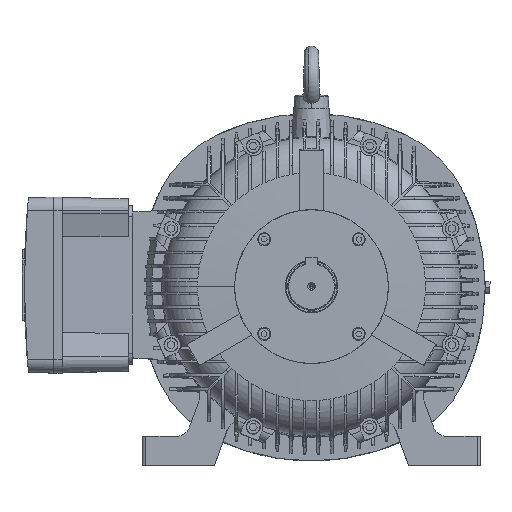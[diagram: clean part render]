
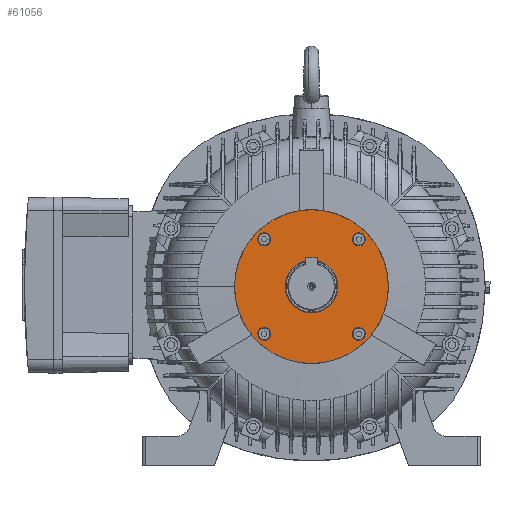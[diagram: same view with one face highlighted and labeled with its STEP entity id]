
A CAD part, top view. The second image highlights one B-rep face of the part: STEP entity #61056.
In plain terms, the highlighted planar face has unit normal (0, 0, 1).
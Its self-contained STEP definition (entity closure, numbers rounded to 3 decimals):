
#13013 = VERTEX_POINT ( 'NONE', #34877 ) ;
#13098 = VERTEX_POINT ( 'NONE', #34905 ) ;
#13116 = VERTEX_POINT ( 'NONE', #34908 ) ;
#13154 = VERTEX_POINT ( 'NONE', #34922 ) ;
#13275 = VERTEX_POINT ( 'NONE', #34960 ) ;
#13293 = VERTEX_POINT ( 'NONE', #34966 ) ;
#13322 = VERTEX_POINT ( 'NONE', #34975 ) ;
#13383 = VERTEX_POINT ( 'NONE', #35011 ) ;
#13553 = VERTEX_POINT ( 'NONE', #35084 ) ;
#13823 = VERTEX_POINT ( 'NONE', #35186 ) ;
#14856 = CARTESIAN_POINT ( 'NONE',  ( -53.74, -53.74, 262. ) ) ;
#14857 = DIRECTION ( 'NONE',  ( 0., 0., 1. ) ) ;
#14858 = DIRECTION ( 'NONE',  ( 1., 0., 0. ) ) ;
#14871 = CARTESIAN_POINT ( 'NONE',  ( 53.74, -53.74, 262. ) ) ;
#14872 = DIRECTION ( 'NONE',  ( 0., 0., 1. ) ) ;
#14873 = DIRECTION ( 'NONE',  ( -1., 0., 0. ) ) ;
#14959 = CARTESIAN_POINT ( 'NONE',  ( 0., 0., 262. ) ) ;
#14960 = DIRECTION ( 'NONE',  ( 0., 0., -1. ) ) ;
#14961 = DIRECTION ( 'NONE',  ( -1., 0., 0. ) ) ;
#15022 = CARTESIAN_POINT ( 'NONE',  ( 53.74, 53.74, 262. ) ) ;
#15023 = DIRECTION ( 'NONE',  ( 0., 0., 1. ) ) ;
#15024 = DIRECTION ( 'NONE',  ( 1., 0., 0. ) ) ;
#15271 = CARTESIAN_POINT ( 'NONE',  ( 0., 0., 262. ) ) ;
#15272 = DIRECTION ( 'NONE',  ( 0., 0., -1. ) ) ;
#15273 = DIRECTION ( 'NONE',  ( -1., 0., 0. ) ) ;
#15405 = CARTESIAN_POINT ( 'NONE',  ( -53.74, 53.74, 262. ) ) ;
#15406 = DIRECTION ( 'NONE',  ( 0., 0., 1. ) ) ;
#15407 = DIRECTION ( 'NONE',  ( -1., 0., 0. ) ) ;
#22206 = EDGE_CURVE ( 'NONE', #13098, #13293, #39817, .T. ) ;
#22211 = EDGE_CURVE ( 'NONE', #13383, #13275, #50423, .T. ) ;
#22238 = EDGE_CURVE ( 'NONE', #13823, #44105, #50472, .T. ) ;
#22259 = EDGE_CURVE ( 'NONE', #13322, #13553, #50509, .T. ) ;
#22318 = EDGE_CURVE ( 'NONE', #43873, #13013, #50720, .T. ) ;
#22356 = EDGE_CURVE ( 'NONE', #13116, #13154, #50847, .T. ) ;
#34877 = CARTESIAN_POINT ( 'NONE',  ( 87.5, 0., 262. ) ) ;
#34905 = CARTESIAN_POINT ( 'NONE',  ( -61.24, -53.74, 262. ) ) ;
#34908 = CARTESIAN_POINT ( 'NONE',  ( -61.24, 53.74, 262. ) ) ;
#34922 = CARTESIAN_POINT ( 'NONE',  ( -46.24, 53.74, 262. ) ) ;
#34960 = CARTESIAN_POINT ( 'NONE',  ( 61.24, -53.74, 262. ) ) ;
#34966 = CARTESIAN_POINT ( 'NONE',  ( -46.24, -53.74, 262. ) ) ;
#34975 = CARTESIAN_POINT ( 'NONE',  ( 46.24, 53.74, 262. ) ) ;
#35011 = CARTESIAN_POINT ( 'NONE',  ( 46.24, -53.74, 262. ) ) ;
#35084 = CARTESIAN_POINT ( 'NONE',  ( 61.24, 53.74, 262. ) ) ;
#35186 = CARTESIAN_POINT ( 'NONE',  ( 27.55, 0., 262. ) ) ;
#39817 = CIRCLE ( 'NONE', #39818, 7.5 ) ;
#39818 = AXIS2_PLACEMENT_3D ( 'NONE', #14856, #14857, #14858 ) ;
#40736 = EDGE_CURVE ( 'NONE', #13293, #13098, #58570, .T. ) ;
#40749 = EDGE_CURVE ( 'NONE', #13154, #13116, #58573, .T. ) ;
#40924 = EDGE_CURVE ( 'NONE', #44105, #13823, #58617, .T. ) ;
#40962 = EDGE_CURVE ( 'NONE', #13275, #13383, #58647, .T. ) ;
#41086 = EDGE_CURVE ( 'NONE', #13553, #13322, #58725, .T. ) ;
#41255 = EDGE_CURVE ( 'NONE', #13013, #43873, #58850, .T. ) ;
#43873 = VERTEX_POINT ( 'NONE', #47133 ) ;
#44028 = EDGE_LOOP ( 'NONE', ( #62968, #62969 ) ) ;
#44066 = EDGE_LOOP ( 'NONE', ( #62965, #62967 ) ) ;
#44105 = VERTEX_POINT ( 'NONE', #47210 ) ;
#44344 = EDGE_LOOP ( 'NONE', ( #62956, #62957 ) ) ;
#44729 = EDGE_LOOP ( 'NONE', ( #62961, #62962 ) ) ;
#45034 = AXIS2_PLACEMENT_3D ( 'NONE', #52800, #52801, #52802 ) ;
#45092 = EDGE_LOOP ( 'NONE', ( #62958, #62960 ) ) ;
#45100 = EDGE_LOOP ( 'NONE', ( #62963, #62964 ) ) ;
#45810 = CARTESIAN_POINT ( 'NONE',  ( 0., 0., 262. ) ) ;
#45813 = DIRECTION ( 'NONE',  ( 0., 0., -1. ) ) ;
#45816 = DIRECTION ( 'NONE',  ( -1., 0., 0. ) ) ;
#47133 = CARTESIAN_POINT ( 'NONE',  ( -87.5, 0., 262. ) ) ;
#47210 = CARTESIAN_POINT ( 'NONE',  ( -27.55, 0., 262. ) ) ;
#49573 = CARTESIAN_POINT ( 'NONE',  ( 53.74, 53.74, 262. ) ) ;
#49574 = DIRECTION ( 'NONE',  ( 0., 0., 1. ) ) ;
#49575 = DIRECTION ( 'NONE',  ( 1., 0., 0. ) ) ;
#50423 = CIRCLE ( 'NONE', #50424, 7.5 ) ;
#50424 = AXIS2_PLACEMENT_3D ( 'NONE', #14871, #14872, #14873 ) ;
#50472 = CIRCLE ( 'NONE', #50473, 27.55 ) ;
#50473 = AXIS2_PLACEMENT_3D ( 'NONE', #14959, #14960, #14961 ) ;
#50509 = CIRCLE ( 'NONE', #50510, 7.5 ) ;
#50510 = AXIS2_PLACEMENT_3D ( 'NONE', #15022, #15023, #15024 ) ;
#50720 = CIRCLE ( 'NONE', #50722, 87.5 ) ;
#50722 = AXIS2_PLACEMENT_3D ( 'NONE', #15271, #15272, #15273 ) ;
#50847 = CIRCLE ( 'NONE', #50849, 7.5 ) ;
#50849 = AXIS2_PLACEMENT_3D ( 'NONE', #15405, #15406, #15407 ) ;
#52793 = FACE_BOUND ( 'NONE', #44344, .T. ) ;
#52794 = FACE_BOUND ( 'NONE', #45092, .T. ) ;
#52795 = FACE_BOUND ( 'NONE', #44729, .T. ) ;
#52796 = FACE_BOUND ( 'NONE', #45100, .T. ) ;
#52797 = FACE_OUTER_BOUND ( 'NONE', #44066, .T. ) ;
#52798 = FACE_BOUND ( 'NONE', #44028, .T. ) ;
#52799 = PLANE ( 'NONE',  #45034 ) ;
#52800 = CARTESIAN_POINT ( 'NONE',  ( 0., 87.5, 262. ) ) ;
#52801 = DIRECTION ( 'NONE',  ( 0., 0., -1. ) ) ;
#52802 = DIRECTION ( 'NONE',  ( -1., 0., 0. ) ) ;
#55450 = CARTESIAN_POINT ( 'NONE',  ( 0., 0., 262. ) ) ;
#55452 = DIRECTION ( 'NONE',  ( 0., 0., -1. ) ) ;
#55454 = DIRECTION ( 'NONE',  ( -1., 0., 0. ) ) ;
#55820 = CARTESIAN_POINT ( 'NONE',  ( 53.74, -53.74, 262. ) ) ;
#55822 = DIRECTION ( 'NONE',  ( 0., 0., 1. ) ) ;
#55824 = DIRECTION ( 'NONE',  ( -1., 0., 0. ) ) ;
#58570 = CIRCLE ( 'NONE', #58571, 7.5 ) ;
#58571 = AXIS2_PLACEMENT_3D ( 'NONE', #68855, #68856, #68857 ) ;
#58573 = CIRCLE ( 'NONE', #58574, 7.5 ) ;
#58574 = AXIS2_PLACEMENT_3D ( 'NONE', #68901, #68902, #68903 ) ;
#58617 = CIRCLE ( 'NONE', #58619, 27.55 ) ;
#58619 = AXIS2_PLACEMENT_3D ( 'NONE', #55450, #55452, #55454 ) ;
#58647 = CIRCLE ( 'NONE', #58649, 7.5 ) ;
#58649 = AXIS2_PLACEMENT_3D ( 'NONE', #55820, #55822, #55824 ) ;
#58725 = CIRCLE ( 'NONE', #58727, 7.5 ) ;
#58727 = AXIS2_PLACEMENT_3D ( 'NONE', #49573, #49574, #49575 ) ;
#58850 = CIRCLE ( 'NONE', #58852, 87.5 ) ;
#58852 = AXIS2_PLACEMENT_3D ( 'NONE', #45810, #45813, #45816 ) ;
#61056 = ADVANCED_FACE ( 'NONE', ( #52793, #52794, #52795, #52796, #52797, #52798 ), #52799, .F. ) ;
#62956 = ORIENTED_EDGE ( 'NONE', *, *, #40749, .F. ) ;
#62957 = ORIENTED_EDGE ( 'NONE', *, *, #22356, .F. ) ;
#62958 = ORIENTED_EDGE ( 'NONE', *, *, #40736, .F. ) ;
#62960 = ORIENTED_EDGE ( 'NONE', *, *, #22206, .F. ) ;
#62961 = ORIENTED_EDGE ( 'NONE', *, *, #40962, .F. ) ;
#62962 = ORIENTED_EDGE ( 'NONE', *, *, #22211, .F. ) ;
#62963 = ORIENTED_EDGE ( 'NONE', *, *, #41086, .F. ) ;
#62964 = ORIENTED_EDGE ( 'NONE', *, *, #22259, .F. ) ;
#62965 = ORIENTED_EDGE ( 'NONE', *, *, #22318, .F. ) ;
#62967 = ORIENTED_EDGE ( 'NONE', *, *, #41255, .F. ) ;
#62968 = ORIENTED_EDGE ( 'NONE', *, *, #40924, .T. ) ;
#62969 = ORIENTED_EDGE ( 'NONE', *, *, #22238, .T. ) ;
#68855 = CARTESIAN_POINT ( 'NONE',  ( -53.74, -53.74, 262. ) ) ;
#68856 = DIRECTION ( 'NONE',  ( 0., 0., 1. ) ) ;
#68857 = DIRECTION ( 'NONE',  ( 1., 0., 0. ) ) ;
#68901 = CARTESIAN_POINT ( 'NONE',  ( -53.74, 53.74, 262. ) ) ;
#68902 = DIRECTION ( 'NONE',  ( 0., 0., 1. ) ) ;
#68903 = DIRECTION ( 'NONE',  ( -1., 0., 0. ) ) ;
